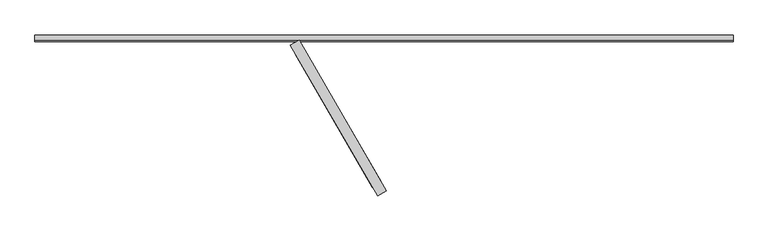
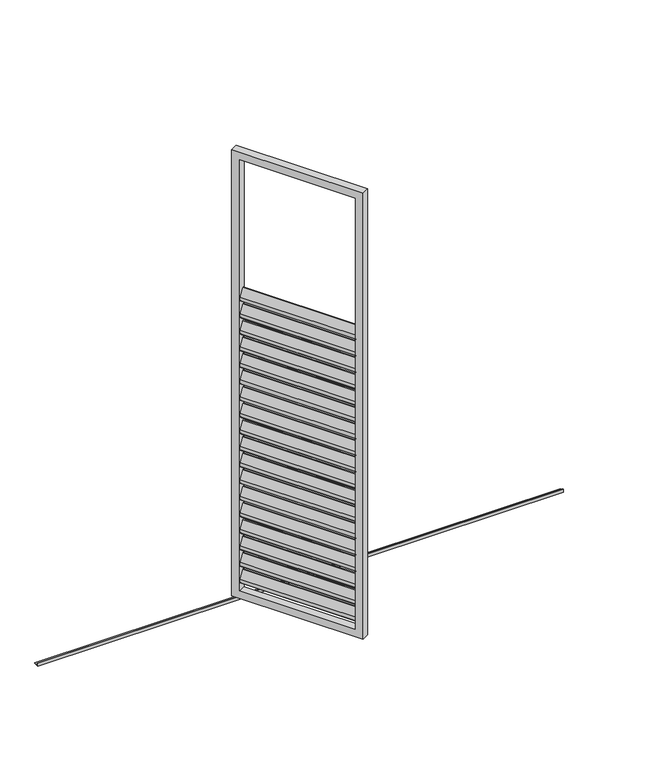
"""IFC4 building model written with IfcOpenShell, lengths in millimetres: proxy geometry, Renson_Amani_Loggia_Paro_Aluminium_Folding : Renson_Amani_Loggia_Paro_Aluminium_Folding."""

from ifc_helpers import new_model, si_unit, point, frame, frame_2d, origin, place, context, project, spatial, polyline, circle_curve, trimmed, segment, composite_curve, outline, extrude, source, transform, mapped, element, save


def generic_models_a6aa64ab(model_context):
    return source(origin(), model_context, "Body", "SweptSolid", [
        extrude(outline(composite_curve([segment(polyline([(-44.0658831, 0.0), (0.8886405, 0.0), (17.0325667, -10.4839883)]), True, "CONTINUOUS"), segment(trimmed(circle_curve(frame_2d((15.3986496, -13.0)), 3.0), [point((17.0325667, -10.4839883))], [point((15.3986496, -16.0))], False, "CARTESIAN"), True, "CONTINUOUS"), segment(polyline([(15.3986496, -16.0), (-28.6672334, -16.0)]), True, "CONTINUOUS"), segment(trimmed(circle_curve(frame_2d((-28.6672334, -13.0)), 3.0), [point((-28.6672334, -16.0))], [point((-30.3011505, -15.5160117))], False, "CARTESIAN"), True, "CONTINUOUS"), segment(polyline([(-30.3011505, -15.5160117), (-45.6998002, -5.5160117)]), True, "CONTINUOUS"), segment(trimmed(circle_curve(frame_2d((-44.0658831, -3.0)), 3.0), [point((-45.6998002, -5.5160117))], [point((-44.0658831, 0.0))], False, "CARTESIAN"), True, "CONTINUOUS")], self_intersect=False)), frame((322.8274249, 37.7168064, 1677.3359298), z_axis=(-0.5000000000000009, 0.8660254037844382, 0.0), x_axis=(-0.47167124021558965, -0.27231951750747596, -0.8386705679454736)), (0.0, 0.0, 1.0), 595.0),
        extrude(outline(composite_curve([segment(polyline([(-44.0658831, 0.0), (0.8886405, 0.0), (17.0325667, -10.4839883)]), True, "CONTINUOUS"), segment(trimmed(circle_curve(frame_2d((15.3986496, -13.0)), 3.0), [point((17.0325667, -10.4839883))], [point((15.3986496, -16.0))], False, "CARTESIAN"), True, "CONTINUOUS"), segment(polyline([(15.3986496, -16.0), (-28.6672334, -16.0)]), True, "CONTINUOUS"), segment(trimmed(circle_curve(frame_2d((-28.6672334, -13.0)), 3.0), [point((-28.6672334, -16.0))], [point((-30.3011505, -15.5160117))], False, "CARTESIAN"), True, "CONTINUOUS"), segment(polyline([(-30.3011505, -15.5160117), (-45.6998002, -5.5160117)]), True, "CONTINUOUS"), segment(trimmed(circle_curve(frame_2d((-44.0658831, -3.0)), 3.0), [point((-45.6998002, -5.5160117))], [point((-44.0658831, 0.0))], False, "CARTESIAN"), True, "CONTINUOUS")], self_intersect=False)), frame((322.8274249, 37.7168064, 1587.3359298), z_axis=(-0.5000000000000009, 0.8660254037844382, 0.0), x_axis=(-0.47167124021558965, -0.27231951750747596, -0.8386705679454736)), (0.0, 0.0, 1.0), 595.0),
        extrude(outline(composite_curve([segment(polyline([(-44.0658831, 0.0), (0.8886405, 0.0), (17.0325667, -10.4839883)]), True, "CONTINUOUS"), segment(trimmed(circle_curve(frame_2d((15.3986496, -13.0)), 3.0), [point((17.0325667, -10.4839883))], [point((15.3986496, -16.0))], False, "CARTESIAN"), True, "CONTINUOUS"), segment(polyline([(15.3986496, -16.0), (-28.6672334, -16.0)]), True, "CONTINUOUS"), segment(trimmed(circle_curve(frame_2d((-28.6672334, -13.0)), 3.0), [point((-28.6672334, -16.0))], [point((-30.3011505, -15.5160117))], False, "CARTESIAN"), True, "CONTINUOUS"), segment(polyline([(-30.3011505, -15.5160117), (-45.6998002, -5.5160117)]), True, "CONTINUOUS"), segment(trimmed(circle_curve(frame_2d((-44.0658831, -3.0)), 3.0), [point((-45.6998002, -5.5160117))], [point((-44.0658831, 0.0))], False, "CARTESIAN"), True, "CONTINUOUS")], self_intersect=False)), frame((322.8274249, 37.7168064, 1497.3359298), z_axis=(-0.5000000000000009, 0.8660254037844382, 0.0), x_axis=(-0.47167124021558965, -0.27231951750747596, -0.8386705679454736)), (0.0, 0.0, 1.0), 595.0),
        extrude(outline(composite_curve([segment(polyline([(-44.0658831, 0.0), (0.8886405, 0.0), (17.0325667, -10.4839883)]), True, "CONTINUOUS"), segment(trimmed(circle_curve(frame_2d((15.3986496, -13.0)), 3.0), [point((17.0325667, -10.4839883))], [point((15.3986496, -16.0))], False, "CARTESIAN"), True, "CONTINUOUS"), segment(polyline([(15.3986496, -16.0), (-28.6672334, -16.0)]), True, "CONTINUOUS"), segment(trimmed(circle_curve(frame_2d((-28.6672334, -13.0)), 3.0), [point((-28.6672334, -16.0))], [point((-30.3011505, -15.5160117))], False, "CARTESIAN"), True, "CONTINUOUS"), segment(polyline([(-30.3011505, -15.5160117), (-45.6998002, -5.5160117)]), True, "CONTINUOUS"), segment(trimmed(circle_curve(frame_2d((-44.0658831, -3.0)), 3.0), [point((-45.6998002, -5.5160117))], [point((-44.0658831, 0.0))], False, "CARTESIAN"), True, "CONTINUOUS")], self_intersect=False)), frame((322.8274249, 37.7168064, 1407.3359298), z_axis=(-0.5000000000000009, 0.8660254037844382, 0.0), x_axis=(-0.47167124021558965, -0.27231951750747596, -0.8386705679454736)), (0.0, 0.0, 1.0), 595.0),
        extrude(outline(composite_curve([segment(polyline([(-44.0658831, 0.0), (0.8886405, 0.0), (17.0325667, -10.4839883)]), True, "CONTINUOUS"), segment(trimmed(circle_curve(frame_2d((15.3986496, -13.0)), 3.0), [point((17.0325667, -10.4839883))], [point((15.3986496, -16.0))], False, "CARTESIAN"), True, "CONTINUOUS"), segment(polyline([(15.3986496, -16.0), (-28.6672334, -16.0)]), True, "CONTINUOUS"), segment(trimmed(circle_curve(frame_2d((-28.6672334, -13.0)), 3.0), [point((-28.6672334, -16.0))], [point((-30.3011505, -15.5160117))], False, "CARTESIAN"), True, "CONTINUOUS"), segment(polyline([(-30.3011505, -15.5160117), (-45.6998002, -5.5160117)]), True, "CONTINUOUS"), segment(trimmed(circle_curve(frame_2d((-44.0658831, -3.0)), 3.0), [point((-45.6998002, -5.5160117))], [point((-44.0658831, 0.0))], False, "CARTESIAN"), True, "CONTINUOUS")], self_intersect=False)), frame((322.8274249, 37.7168064, 1317.3359298), z_axis=(-0.5000000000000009, 0.8660254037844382, 0.0), x_axis=(-0.47167124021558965, -0.27231951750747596, -0.8386705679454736)), (0.0, 0.0, 1.0), 595.0),
        extrude(outline(composite_curve([segment(polyline([(-44.0658831, 0.0), (0.8886405, 0.0), (17.0325667, -10.4839883)]), True, "CONTINUOUS"), segment(trimmed(circle_curve(frame_2d((15.3986496, -13.0)), 3.0), [point((17.0325667, -10.4839883))], [point((15.3986496, -16.0))], False, "CARTESIAN"), True, "CONTINUOUS"), segment(polyline([(15.3986496, -16.0), (-28.6672334, -16.0)]), True, "CONTINUOUS"), segment(trimmed(circle_curve(frame_2d((-28.6672334, -13.0)), 3.0), [point((-28.6672334, -16.0))], [point((-30.3011505, -15.5160117))], False, "CARTESIAN"), True, "CONTINUOUS"), segment(polyline([(-30.3011505, -15.5160117), (-45.6998002, -5.5160117)]), True, "CONTINUOUS"), segment(trimmed(circle_curve(frame_2d((-44.0658831, -3.0)), 3.0), [point((-45.6998002, -5.5160117))], [point((-44.0658831, 0.0))], False, "CARTESIAN"), True, "CONTINUOUS")], self_intersect=False)), frame((322.8274249, 37.7168064, 1227.3359298), z_axis=(-0.5000000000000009, 0.8660254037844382, 0.0), x_axis=(-0.47167124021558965, -0.27231951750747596, -0.8386705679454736)), (0.0, 0.0, 1.0), 595.0),
        extrude(outline(composite_curve([segment(polyline([(-44.0658831, 0.0), (0.8886405, 0.0), (17.0325667, -10.4839883)]), True, "CONTINUOUS"), segment(trimmed(circle_curve(frame_2d((15.3986496, -13.0)), 3.0), [point((17.0325667, -10.4839883))], [point((15.3986496, -16.0))], False, "CARTESIAN"), True, "CONTINUOUS"), segment(polyline([(15.3986496, -16.0), (-28.6672334, -16.0)]), True, "CONTINUOUS"), segment(trimmed(circle_curve(frame_2d((-28.6672334, -13.0)), 3.0), [point((-28.6672334, -16.0))], [point((-30.3011505, -15.5160117))], False, "CARTESIAN"), True, "CONTINUOUS"), segment(polyline([(-30.3011505, -15.5160117), (-45.6998002, -5.5160117)]), True, "CONTINUOUS"), segment(trimmed(circle_curve(frame_2d((-44.0658831, -3.0)), 3.0), [point((-45.6998002, -5.5160117))], [point((-44.0658831, 0.0))], False, "CARTESIAN"), True, "CONTINUOUS")], self_intersect=False)), frame((322.8274249, 37.7168064, 1137.3359298), z_axis=(-0.5000000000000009, 0.8660254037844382, 0.0), x_axis=(-0.47167124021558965, -0.27231951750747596, -0.8386705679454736)), (0.0, 0.0, 1.0), 595.0),
        extrude(outline(composite_curve([segment(polyline([(-44.0658831, 0.0), (0.8886405, 0.0), (17.0325667, -10.4839883)]), True, "CONTINUOUS"), segment(trimmed(circle_curve(frame_2d((15.3986496, -13.0)), 3.0), [point((17.0325667, -10.4839883))], [point((15.3986496, -16.0))], False, "CARTESIAN"), True, "CONTINUOUS"), segment(polyline([(15.3986496, -16.0), (-28.6672334, -16.0)]), True, "CONTINUOUS"), segment(trimmed(circle_curve(frame_2d((-28.6672334, -13.0)), 3.0), [point((-28.6672334, -16.0))], [point((-30.3011505, -15.5160117))], False, "CARTESIAN"), True, "CONTINUOUS"), segment(polyline([(-30.3011505, -15.5160117), (-45.6998002, -5.5160117)]), True, "CONTINUOUS"), segment(trimmed(circle_curve(frame_2d((-44.0658831, -3.0)), 3.0), [point((-45.6998002, -5.5160117))], [point((-44.0658831, 0.0))], False, "CARTESIAN"), True, "CONTINUOUS")], self_intersect=False)), frame((322.8274249, 37.7168064, 1047.3359298), z_axis=(-0.5000000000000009, 0.8660254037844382, 0.0), x_axis=(-0.47167124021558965, -0.27231951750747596, -0.8386705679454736)), (0.0, 0.0, 1.0), 595.0),
        extrude(outline(composite_curve([segment(polyline([(-44.0658831, 0.0), (0.8886405, 0.0), (17.0325667, -10.4839883)]), True, "CONTINUOUS"), segment(trimmed(circle_curve(frame_2d((15.3986496, -13.0)), 3.0), [point((17.0325667, -10.4839883))], [point((15.3986496, -16.0))], False, "CARTESIAN"), True, "CONTINUOUS"), segment(polyline([(15.3986496, -16.0), (-28.6672334, -16.0)]), True, "CONTINUOUS"), segment(trimmed(circle_curve(frame_2d((-28.6672334, -13.0)), 3.0), [point((-28.6672334, -16.0))], [point((-30.3011505, -15.5160117))], False, "CARTESIAN"), True, "CONTINUOUS"), segment(polyline([(-30.3011505, -15.5160117), (-45.6998002, -5.5160117)]), True, "CONTINUOUS"), segment(trimmed(circle_curve(frame_2d((-44.0658831, -3.0)), 3.0), [point((-45.6998002, -5.5160117))], [point((-44.0658831, 0.0))], False, "CARTESIAN"), True, "CONTINUOUS")], self_intersect=False)), frame((322.8274249, 37.7168064, 957.3359298), z_axis=(-0.5000000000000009, 0.8660254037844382, 0.0), x_axis=(-0.47167124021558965, -0.27231951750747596, -0.8386705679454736)), (0.0, 0.0, 1.0), 595.0),
        extrude(outline(composite_curve([segment(polyline([(-44.0658831, 0.0), (0.8886405, 0.0), (17.0325667, -10.4839883)]), True, "CONTINUOUS"), segment(trimmed(circle_curve(frame_2d((15.3986496, -13.0)), 3.0), [point((17.0325667, -10.4839883))], [point((15.3986496, -16.0))], False, "CARTESIAN"), True, "CONTINUOUS"), segment(polyline([(15.3986496, -16.0), (-28.6672334, -16.0)]), True, "CONTINUOUS"), segment(trimmed(circle_curve(frame_2d((-28.6672334, -13.0)), 3.0), [point((-28.6672334, -16.0))], [point((-30.3011505, -15.5160117))], False, "CARTESIAN"), True, "CONTINUOUS"), segment(polyline([(-30.3011505, -15.5160117), (-45.6998002, -5.5160117)]), True, "CONTINUOUS"), segment(trimmed(circle_curve(frame_2d((-44.0658831, -3.0)), 3.0), [point((-45.6998002, -5.5160117))], [point((-44.0658831, 0.0))], False, "CARTESIAN"), True, "CONTINUOUS")], self_intersect=False)), frame((322.8274249, 37.7168064, 867.3359298), z_axis=(-0.5000000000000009, 0.8660254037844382, 0.0), x_axis=(-0.47167124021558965, -0.27231951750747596, -0.8386705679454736)), (0.0, 0.0, 1.0), 595.0),
        extrude(outline(composite_curve([segment(polyline([(-44.0658831, 0.0), (0.8886405, 0.0), (17.0325667, -10.4839883)]), True, "CONTINUOUS"), segment(trimmed(circle_curve(frame_2d((15.3986496, -13.0)), 3.0), [point((17.0325667, -10.4839883))], [point((15.3986496, -16.0))], False, "CARTESIAN"), True, "CONTINUOUS"), segment(polyline([(15.3986496, -16.0), (-28.6672334, -16.0)]), True, "CONTINUOUS"), segment(trimmed(circle_curve(frame_2d((-28.6672334, -13.0)), 3.0), [point((-28.6672334, -16.0))], [point((-30.3011505, -15.5160117))], False, "CARTESIAN"), True, "CONTINUOUS"), segment(polyline([(-30.3011505, -15.5160117), (-45.6998002, -5.5160117)]), True, "CONTINUOUS"), segment(trimmed(circle_curve(frame_2d((-44.0658831, -3.0)), 3.0), [point((-45.6998002, -5.5160117))], [point((-44.0658831, 0.0))], False, "CARTESIAN"), True, "CONTINUOUS")], self_intersect=False)), frame((322.8274249, 37.7168064, 777.3359298), z_axis=(-0.5000000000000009, 0.8660254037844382, 0.0), x_axis=(-0.47167124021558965, -0.27231951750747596, -0.8386705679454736)), (0.0, 0.0, 1.0), 595.0),
        extrude(outline(composite_curve([segment(polyline([(-44.0658831, 0.0), (0.8886405, 0.0), (17.0325667, -10.4839883)]), True, "CONTINUOUS"), segment(trimmed(circle_curve(frame_2d((15.3986496, -13.0)), 3.0), [point((17.0325667, -10.4839883))], [point((15.3986496, -16.0))], False, "CARTESIAN"), True, "CONTINUOUS"), segment(polyline([(15.3986496, -16.0), (-28.6672334, -16.0)]), True, "CONTINUOUS"), segment(trimmed(circle_curve(frame_2d((-28.6672334, -13.0)), 3.0), [point((-28.6672334, -16.0))], [point((-30.3011505, -15.5160117))], False, "CARTESIAN"), True, "CONTINUOUS"), segment(polyline([(-30.3011505, -15.5160117), (-45.6998002, -5.5160117)]), True, "CONTINUOUS"), segment(trimmed(circle_curve(frame_2d((-44.0658831, -3.0)), 3.0), [point((-45.6998002, -5.5160117))], [point((-44.0658831, 0.0))], False, "CARTESIAN"), True, "CONTINUOUS")], self_intersect=False)), frame((322.8274249, 37.7168064, 687.3359298), z_axis=(-0.5000000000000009, 0.8660254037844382, 0.0), x_axis=(-0.47167124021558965, -0.27231951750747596, -0.8386705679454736)), (0.0, 0.0, 1.0), 595.0),
        extrude(outline(composite_curve([segment(polyline([(-44.0658831, 0.0), (0.8886405, 0.0), (17.0325667, -10.4839883)]), True, "CONTINUOUS"), segment(trimmed(circle_curve(frame_2d((15.3986496, -13.0)), 3.0), [point((17.0325667, -10.4839883))], [point((15.3986496, -16.0))], False, "CARTESIAN"), True, "CONTINUOUS"), segment(polyline([(15.3986496, -16.0), (-28.6672334, -16.0)]), True, "CONTINUOUS"), segment(trimmed(circle_curve(frame_2d((-28.6672334, -13.0)), 3.0), [point((-28.6672334, -16.0))], [point((-30.3011505, -15.5160117))], False, "CARTESIAN"), True, "CONTINUOUS"), segment(polyline([(-30.3011505, -15.5160117), (-45.6998002, -5.5160117)]), True, "CONTINUOUS"), segment(trimmed(circle_curve(frame_2d((-44.0658831, -3.0)), 3.0), [point((-45.6998002, -5.5160117))], [point((-44.0658831, 0.0))], False, "CARTESIAN"), True, "CONTINUOUS")], self_intersect=False)), frame((322.8274249, 37.7168064, 597.3359298), z_axis=(-0.5000000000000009, 0.8660254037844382, 0.0), x_axis=(-0.47167124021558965, -0.27231951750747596, -0.8386705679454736)), (0.0, 0.0, 1.0), 595.0),
        extrude(outline(composite_curve([segment(polyline([(-44.0658831, 0.0), (0.8886405, 0.0), (17.0325667, -10.4839883)]), True, "CONTINUOUS"), segment(trimmed(circle_curve(frame_2d((15.3986496, -13.0)), 3.0), [point((17.0325667, -10.4839883))], [point((15.3986496, -16.0))], False, "CARTESIAN"), True, "CONTINUOUS"), segment(polyline([(15.3986496, -16.0), (-28.6672334, -16.0)]), True, "CONTINUOUS"), segment(trimmed(circle_curve(frame_2d((-28.6672334, -13.0)), 3.0), [point((-28.6672334, -16.0))], [point((-30.3011505, -15.5160117))], False, "CARTESIAN"), True, "CONTINUOUS"), segment(polyline([(-30.3011505, -15.5160117), (-45.6998002, -5.5160117)]), True, "CONTINUOUS"), segment(trimmed(circle_curve(frame_2d((-44.0658831, -3.0)), 3.0), [point((-45.6998002, -5.5160117))], [point((-44.0658831, 0.0))], False, "CARTESIAN"), True, "CONTINUOUS")], self_intersect=False)), frame((322.8274249, 37.7168064, 507.3359298), z_axis=(-0.5000000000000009, 0.8660254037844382, 0.0), x_axis=(-0.47167124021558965, -0.27231951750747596, -0.8386705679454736)), (0.0, 0.0, 1.0), 595.0),
        extrude(outline(composite_curve([segment(polyline([(-44.0658831, 0.0), (0.8886405, 0.0), (17.0325667, -10.4839883)]), True, "CONTINUOUS"), segment(trimmed(circle_curve(frame_2d((15.3986496, -13.0)), 3.0), [point((17.0325667, -10.4839883))], [point((15.3986496, -16.0))], False, "CARTESIAN"), True, "CONTINUOUS"), segment(polyline([(15.3986496, -16.0), (-28.6672334, -16.0)]), True, "CONTINUOUS"), segment(trimmed(circle_curve(frame_2d((-28.6672334, -13.0)), 3.0), [point((-28.6672334, -16.0))], [point((-30.3011505, -15.5160117))], False, "CARTESIAN"), True, "CONTINUOUS"), segment(polyline([(-30.3011505, -15.5160117), (-45.6998002, -5.5160117)]), True, "CONTINUOUS"), segment(trimmed(circle_curve(frame_2d((-44.0658831, -3.0)), 3.0), [point((-45.6998002, -5.5160117))], [point((-44.0658831, 0.0))], False, "CARTESIAN"), True, "CONTINUOUS")], self_intersect=False)), frame((322.8274249, 37.7168064, 417.3359298), z_axis=(-0.5000000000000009, 0.8660254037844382, 0.0), x_axis=(-0.47167124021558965, -0.27231951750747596, -0.8386705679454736)), (0.0, 0.0, 1.0), 595.0),
        extrude(outline(composite_curve([segment(polyline([(-44.0658831, 0.0), (0.8886405, 0.0), (17.0325667, -10.4839883)]), True, "CONTINUOUS"), segment(trimmed(circle_curve(frame_2d((15.3986496, -13.0)), 3.0), [point((17.0325667, -10.4839883))], [point((15.3986496, -16.0))], False, "CARTESIAN"), True, "CONTINUOUS"), segment(polyline([(15.3986496, -16.0), (-28.6672334, -16.0)]), True, "CONTINUOUS"), segment(trimmed(circle_curve(frame_2d((-28.6672334, -13.0)), 3.0), [point((-28.6672334, -16.0))], [point((-30.3011505, -15.5160117))], False, "CARTESIAN"), True, "CONTINUOUS"), segment(polyline([(-30.3011505, -15.5160117), (-45.6998002, -5.5160117)]), True, "CONTINUOUS"), segment(trimmed(circle_curve(frame_2d((-44.0658831, -3.0)), 3.0), [point((-45.6998002, -5.5160117))], [point((-44.0658831, 0.0))], False, "CARTESIAN"), True, "CONTINUOUS")], self_intersect=False)), frame((322.8274249, 37.7168064, 327.3359298), z_axis=(-0.5000000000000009, 0.8660254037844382, 0.0), x_axis=(-0.47167124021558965, -0.27231951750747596, -0.8386705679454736)), (0.0, 0.0, 1.0), 595.0),
        extrude(outline(composite_curve([segment(polyline([(-44.0658831, 0.0), (0.8886405, 0.0), (17.0325667, -10.4839883)]), True, "CONTINUOUS"), segment(trimmed(circle_curve(frame_2d((15.3986496, -13.0)), 3.0), [point((17.0325667, -10.4839883))], [point((15.3986496, -16.0))], False, "CARTESIAN"), True, "CONTINUOUS"), segment(polyline([(15.3986496, -16.0), (-28.6672334, -16.0)]), True, "CONTINUOUS"), segment(trimmed(circle_curve(frame_2d((-28.6672334, -13.0)), 3.0), [point((-28.6672334, -16.0))], [point((-30.3011505, -15.5160117))], False, "CARTESIAN"), True, "CONTINUOUS"), segment(polyline([(-30.3011505, -15.5160117), (-45.6998002, -5.5160117)]), True, "CONTINUOUS"), segment(trimmed(circle_curve(frame_2d((-44.0658831, -3.0)), 3.0), [point((-45.6998002, -5.5160117))], [point((-44.0658831, 0.0))], False, "CARTESIAN"), True, "CONTINUOUS")], self_intersect=False)), frame((322.8274249, 37.7168064, 237.3359298), z_axis=(-0.5000000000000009, 0.8660254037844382, 0.0), x_axis=(-0.47167124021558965, -0.27231951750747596, -0.8386705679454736)), (0.0, 0.0, 1.0), 595.0),
        extrude(outline(composite_curve([segment(polyline([(-44.0658831, 0.0), (0.8886405, 0.0), (17.0325667, -10.4839883)]), True, "CONTINUOUS"), segment(trimmed(circle_curve(frame_2d((15.3986496, -13.0)), 3.0), [point((17.0325667, -10.4839883))], [point((15.3986496, -16.0))], False, "CARTESIAN"), True, "CONTINUOUS"), segment(polyline([(15.3986496, -16.0), (-28.6672334, -16.0)]), True, "CONTINUOUS"), segment(trimmed(circle_curve(frame_2d((-28.6672334, -13.0)), 3.0), [point((-28.6672334, -16.0))], [point((-30.3011505, -15.5160117))], False, "CARTESIAN"), True, "CONTINUOUS"), segment(polyline([(-30.3011505, -15.5160117), (-45.6998002, -5.5160117)]), True, "CONTINUOUS"), segment(trimmed(circle_curve(frame_2d((-44.0658831, -3.0)), 3.0), [point((-45.6998002, -5.5160117))], [point((-44.0658831, 0.0))], False, "CARTESIAN"), True, "CONTINUOUS")], self_intersect=False)), frame((322.8274249, 37.7168064, 147.3359298), z_axis=(-0.5000000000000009, 0.8660254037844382, 0.0), x_axis=(-0.47167124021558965, -0.27231951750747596, -0.8386705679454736)), (0.0, 0.0, 1.0), 595.0),
        extrude(outline(polyline([(2380.0, -40.0), (-40.0, -40.0), (-40.0, 635.0), (2380.0, 635.0), (2380.0, -40.0)]), holes=[polyline([(2340.0, 595.0), (0.0, 595.0), (0.0, 0.0), (2340.0, 0.0), (2340.0, 595.0)])]), frame((20.0, 549.9261314, 85.0), z_axis=(0.8660254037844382, 0.5000000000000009, 0.0), x_axis=(0.0, 0.0, 1.0)), (0.0, 0.0, 1.0), 40.0),
        extrude(outline(polyline([(598.5671476, 15.0), (601.5671476, 15.0), (601.5671476, 3.0), (624.5671476, 3.0), (624.5671476, 0.0), (598.5671476, 0.0), (598.5671476, 15.0)])), frame((-987.4787095, 0.0, 0.0), z_axis=(1.0, 0.0, 0.0), x_axis=(0.0, 1.0, 0.0)), (0.0, 0.0, 1.0), 2700.0),
    ])


if __name__ == "__main__":
    model = new_model("IFC4")
    model_context = context("Model", 3, world=origin())
    ifc_project = project(units=[si_unit("LENGTHUNIT", "METRE", prefix="MILLI")], contexts=[model_context])
    site = spatial("IfcSite", under=ifc_project)
    building = spatial("IfcBuilding", under=site)
    placement = place(None, origin())
    generic_models_shape = generic_models_a6aa64ab(model_context)
    element("IfcBuildingElementProxy", 1, Name="Renson_Amani_Loggia_Paro_Aluminium_Folding : Renson_Amani_Loggia_Paro_Aluminium_Folding", ObjectType="Renson_Amani_Loggia_Paro_Aluminium_Folding : Renson_Amani_Loggia_Paro_Aluminium_Folding", at=placement, inside=building, context=model_context, shape_type="MappedRepresentation", body=[
        mapped(generic_models_shape, transform((0.0, 0.0, 0.0), x_axis=(1.0, 0.0, 0.0), y_axis=(0.0, 1.0, 0.0), z_axis=(0.0, 0.0, 1.0))),
    ])
    save(model, "model.ifc")
